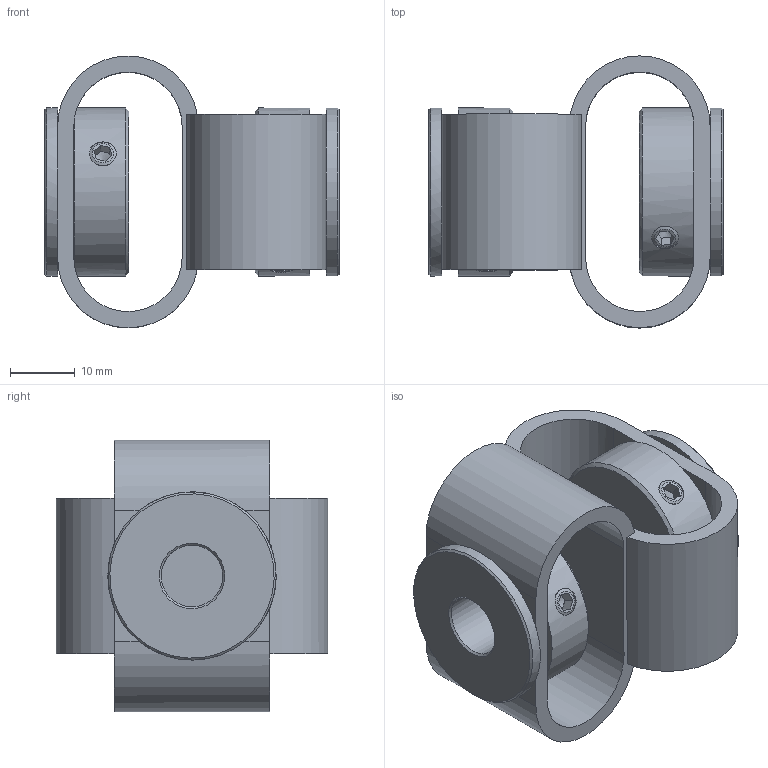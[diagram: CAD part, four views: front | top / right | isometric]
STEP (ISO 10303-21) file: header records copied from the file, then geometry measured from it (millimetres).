
FILE_DESCRIPTION(/* description */ (''),/* implementation_level */ '2;1');
FILE_NAME(/* name */ 'E:\ABP_bauteile\Doppelschlaufenkupplung\DKPS_4848\Doppelschlaufenkupplung_DKPS_4848_06_95.stp',/* time_stamp */ '2015-03-13T13:56:50+01:00',/* author */ ('Rob'),/* organization */ (''),/* preprocessor_version */ 'ST-DEVELOPER v15.6',/* originating_system */ 'Autodesk Inventor 2015',/* authorisation */ '');
FILE_SCHEMA (('CONFIG_CONTROL_DESIGN'));
Length unit declared in the file: millimetre
Products named in the file (1): Bauteil16
Bounding box: 45.55 x 42.03 x 42.03 mm (x, y, z)
Volume: 20369.2 mm3; surface area: 13438.6 mm2
Topology: 1 solids, 2 shells, 138 faces, 317 edges, 190 vertices
Faces by surface type: plane 83, cone 28, cylinder 27
Full cylindrical faces by diameter (mm): 4.134 x8, 6 x1, 9.52 x1, 16.5 x2, 18 x3, 26 x4
Entity records: 3670 total; most frequent: CARTESIAN_POINT 873, DIRECTION 604, ORIENTED_EDGE 482, AXIS2_PLACEMENT_3D 242, EDGE_CURVE 241, EDGE_LOOP 202, VERTEX_POINT 157, FACE_OUTER_BOUND 138
